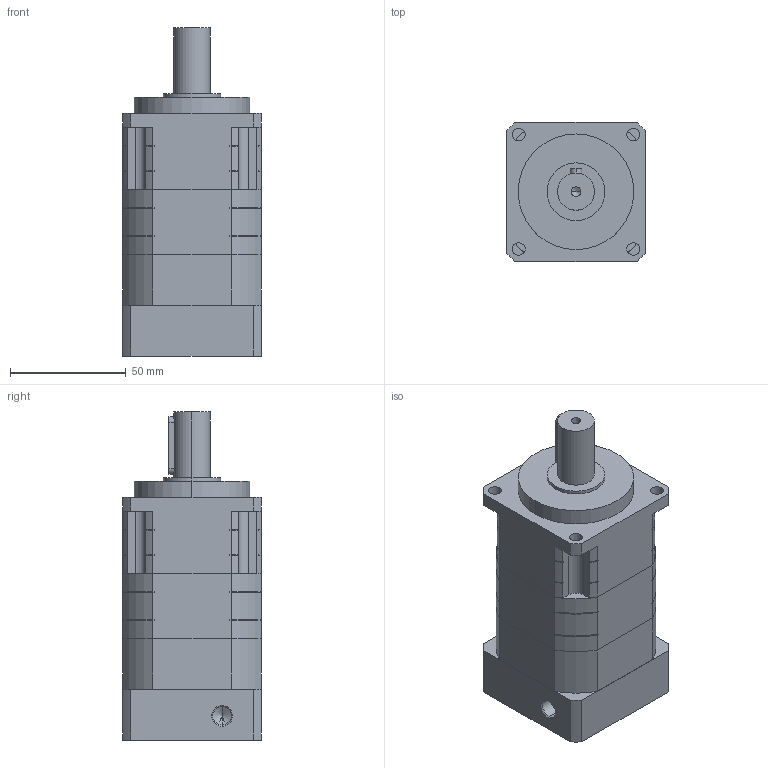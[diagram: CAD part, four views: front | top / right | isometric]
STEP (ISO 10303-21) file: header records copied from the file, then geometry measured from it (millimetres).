
FILE_DESCRIPTION (( 'STEP AP203' ), '1' );
FILE_NAME ('SG060L2.STEP', '2017-06-09T03:37:58', ( 'user1' ), ( '' ), 'SwSTEP 2.0', 'SolidWorks 2012', '' );
FILE_SCHEMA (( 'CONFIG_CONTROL_DESIGN' ));
Length unit declared in the file: millimetre
Products named in the file (8): SG060L2; 零件7^PG60L1_1; 零件6^PG60L1; 零件5^PG60L1; 零件4^PG60L1; 零件3^PG60L1_1; 零件2^PG60L1_1; 零件1^PG60L1_1
Assembly tree (7 placements, depth 2):
  SG060L2
    零件1^PG60L1_1
    零件2^PG60L1_1
    零件3^PG60L1_1
    零件4^PG60L1
    零件5^PG60L1
    零件6^PG60L1
    零件7^PG60L1_1
Bounding box: 60 x 60 x 142 mm (x, y, z)
Volume: 345034.5 mm3; surface area: 65874.4 mm2
Topology: 9 solids, 9 shells, 300 faces, 790 edges, 513 vertices
Faces by surface type: cylinder 157, plane 117, cone 26
Entity records: 10304 total; most frequent: CARTESIAN_POINT 1769, DIRECTION 1712, ORIENTED_EDGE 1552, EDGE_CURVE 776, AXIS2_PLACEMENT_3D 634, VERTEX_POINT 513, LINE 444, VECTOR 444
